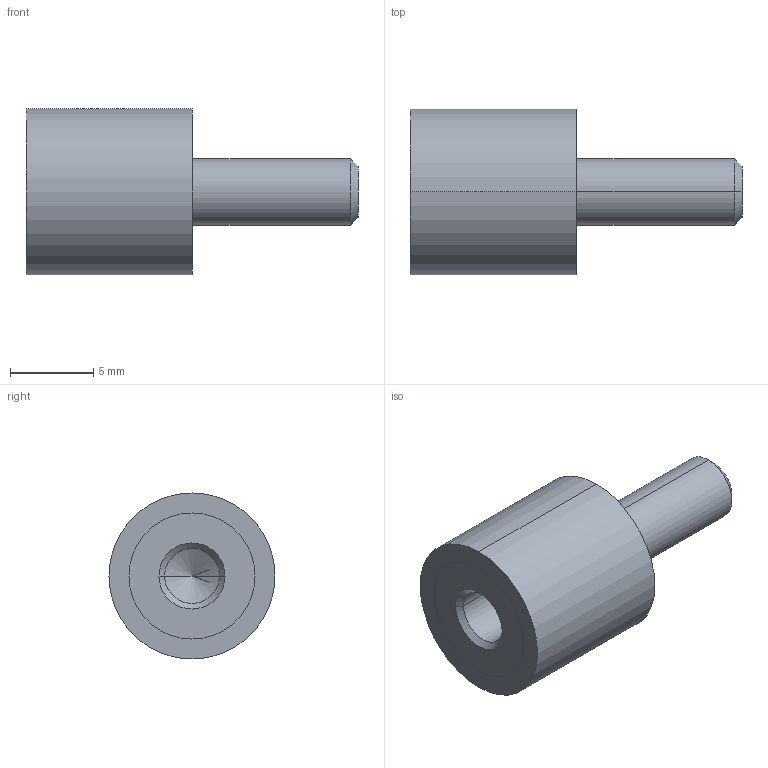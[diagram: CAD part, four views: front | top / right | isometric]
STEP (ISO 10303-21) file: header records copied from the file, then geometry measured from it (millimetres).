
FILE_DESCRIPTION (( 'STEP AP214' ), '1' );
FILE_NAME ('351-10-10-M4-ES-70.step', '2025-07-23T09:41:34', ( '' ), ( '' ), 'SwSTEP 2.0', 'SolidWorks 2022', '' );
FILE_SCHEMA (( 'AUTOMOTIVE_DESIGN' ));
Length unit declared in the file: millimetre
Products named in the file (1): 351-10-10-M4-ES-70
Bounding box: 20 x 10 x 10 mm (x, y, z)
Volume: 863.2 mm3; surface area: 645 mm2
Topology: 1 solids, 1 shells, 24 faces, 48 edges, 29 vertices
Faces by surface type: cylinder 12, cone 6, plane 6
Entity records: 740 total; most frequent: DIRECTION 124, CARTESIAN_POINT 100, ORIENTED_EDGE 92, AXIS2_PLACEMENT_3D 53, EDGE_CURVE 46, EDGE_LOOP 29, VERTEX_POINT 29, CIRCLE 28
